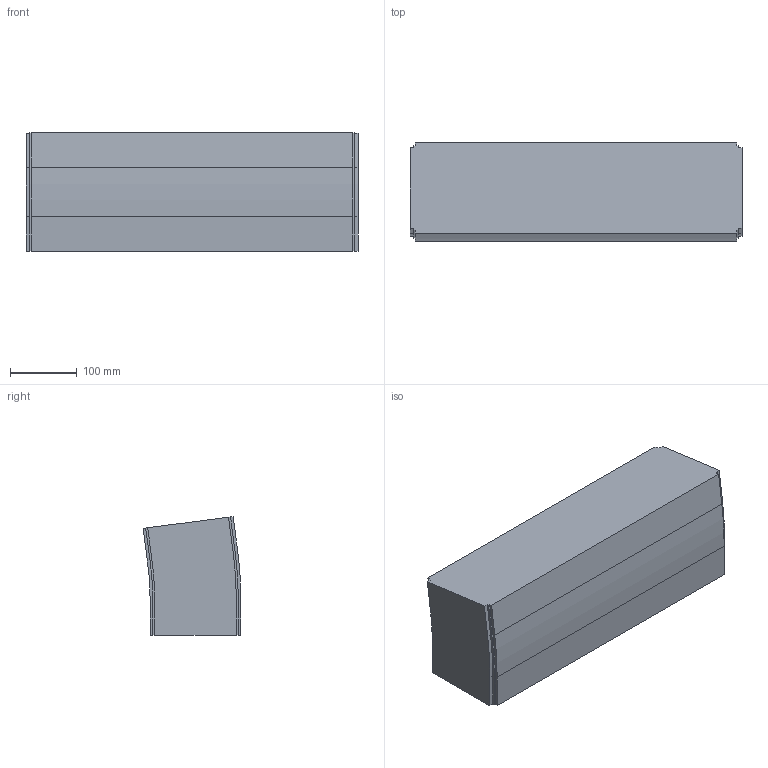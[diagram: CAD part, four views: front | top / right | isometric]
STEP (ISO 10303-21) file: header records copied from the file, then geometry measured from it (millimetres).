
FILE_DESCRIPTION (( 'STEP AP214' ), '1' );
FILE_NAME ('FS-MTC2-150-INOX verticaalbocht.500 7,5°.STEP', '2017-02-08T12:42:15', ( '' ), ( '' ), 'SwSTEP 2.0', 'SolidWorks 2016', '' );
FILE_SCHEMA (( 'AUTOMOTIVE_DESIGN' ));
Length unit declared in the file: millimetre
Products named in the file (1): FS-MTC2-150-INOX verticaalbocht.500 7,5°
Bounding box: 499 x 147.05 x 178.72 mm (x, y, z)
Volume: 11575300.2 mm3; surface area: 352462.4 mm2
Topology: 1 solids, 1 shells, 42 faces, 120 edges, 80 vertices
Faces by surface type: plane 32, cylinder 10
Entity records: 1398 total; most frequent: CARTESIAN_POINT 243, ORIENTED_EDGE 240, DIRECTION 226, EDGE_CURVE 120, VECTOR 100, LINE 100, VERTEX_POINT 80, AXIS2_PLACEMENT_3D 63
